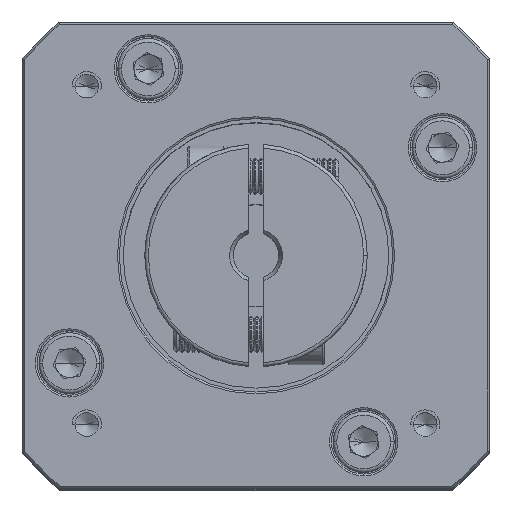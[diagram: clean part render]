
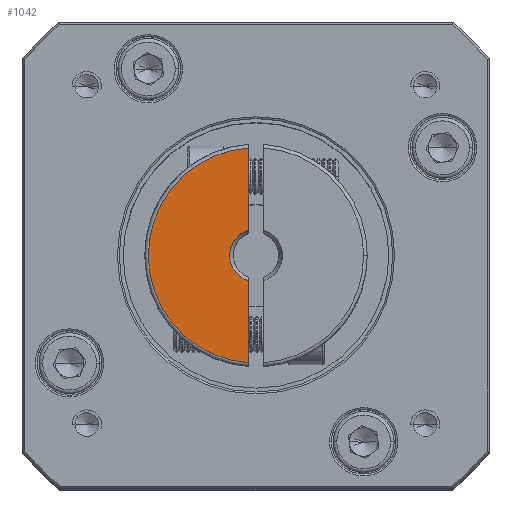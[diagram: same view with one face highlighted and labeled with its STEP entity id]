
A CAD part, top view. The second image highlights one B-rep face of the part: STEP entity #1042.
In plain terms, the highlighted planar face has unit normal (0, 0, 1).
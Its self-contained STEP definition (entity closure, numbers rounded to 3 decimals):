
#1042 = ADVANCED_FACE ( 'NONE', ( #103143 ), #13621, .T. ) ;
#9918 = DIRECTION ( 'NONE',  ( 0., -1., 0. ) ) ;
#12757 = DIRECTION ( 'NONE',  ( 1., 0., 0. ) ) ;
#12778 = DIRECTION ( 'NONE',  ( 0., 0., 1. ) ) ;
#12889 = CARTESIAN_POINT ( 'NONE',  ( 10.256, 10.759, 143.65 ) ) ;
#13621 = PLANE ( 'NONE',  #67236 ) ;
#15723 = LINE ( 'NONE', #25819, #57316 ) ;
#15852 = AXIS2_PLACEMENT_3D ( 'NONE', #80806, #31502, #88990 ) ;
#17709 = CARTESIAN_POINT ( 'NONE',  ( 10.256, 10.759, 143.65 ) ) ;
#21398 = ORIENTED_EDGE ( 'NONE', *, *, #54264, .F. ) ;
#21848 = CARTESIAN_POINT ( 'NONE',  ( 9.256, 25.725, 143.65 ) ) ;
#25819 = CARTESIAN_POINT ( 'NONE',  ( 9.256, -5.73, 143.65 ) ) ;
#26007 = DIRECTION ( 'NONE',  ( 1., 0., 0. ) ) ;
#28105 = CARTESIAN_POINT ( 'NONE',  ( 9.256, -4.208, 143.65 ) ) ;
#31502 = DIRECTION ( 'NONE',  ( 0., 0., 1. ) ) ;
#36632 = VERTEX_POINT ( 'NONE', #21848 ) ;
#46892 = ORIENTED_EDGE ( 'NONE', *, *, #57141, .T. ) ;
#53466 = EDGE_CURVE ( 'NONE', #64028, #71422, #96561, .T. ) ;
#54264 = EDGE_CURVE ( 'NONE', #64028, #56301, #104036, .T. ) ;
#56301 = VERTEX_POINT ( 'NONE', #28105 ) ;
#56457 = AXIS2_PLACEMENT_3D ( 'NONE', #17709, #75465, #26007 ) ;
#57141 = EDGE_CURVE ( 'NONE', #36632, #56301, #72987, .T. ) ;
#57316 = VECTOR ( 'NONE', #9918, 1000. ) ;
#59481 = EDGE_CURVE ( 'NONE', #36632, #71422, #15723, .T. ) ;
#64028 = VERTEX_POINT ( 'NONE', #85030 ) ;
#67236 = AXIS2_PLACEMENT_3D ( 'NONE', #12889, #12778, #12757 ) ;
#70330 = CARTESIAN_POINT ( 'NONE',  ( 9.256, 14.295, 143.65 ) ) ;
#71422 = VERTEX_POINT ( 'NONE', #70330 ) ;
#71581 = DIRECTION ( 'NONE',  ( 0., -1., 0. ) ) ;
#72987 = CIRCLE ( 'NONE', #15852, 15. ) ;
#74258 = ORIENTED_EDGE ( 'NONE', *, *, #53466, .T. ) ;
#75465 = DIRECTION ( 'NONE',  ( 0., 0., -1. ) ) ;
#80806 = CARTESIAN_POINT ( 'NONE',  ( 10.256, 10.759, 143.65 ) ) ;
#82344 = VECTOR ( 'NONE', #71581, 1000. ) ;
#85030 = CARTESIAN_POINT ( 'NONE',  ( 9.256, 7.222, 143.65 ) ) ;
#88990 = DIRECTION ( 'NONE',  ( 1., 0., 0. ) ) ;
#95727 = CARTESIAN_POINT ( 'NONE',  ( 9.256, -5.73, 143.65 ) ) ;
#96561 = CIRCLE ( 'NONE', #56457, 3.675 ) ;
#100474 = ORIENTED_EDGE ( 'NONE', *, *, #59481, .F. ) ;
#103143 = FACE_OUTER_BOUND ( 'NONE', #105280, .T. ) ;
#104036 = LINE ( 'NONE', #95727, #82344 ) ;
#105280 = EDGE_LOOP ( 'NONE', ( #100474, #46892, #21398, #74258 ) ) ;
